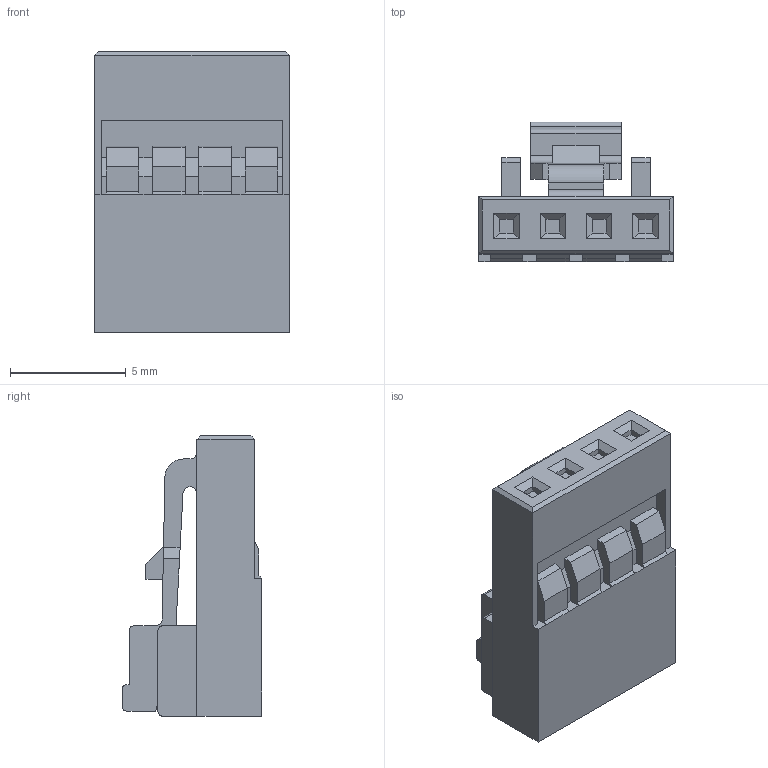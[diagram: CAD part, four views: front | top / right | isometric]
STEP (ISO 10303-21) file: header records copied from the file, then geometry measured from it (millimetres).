
FILE_DESCRIPTION((''),'2;1');
FILE_NAME('1511000004','2018-11-27T',('gga'),(''),'PRO/ENGINEER BY PARAMETRIC TECHNOLOGY CORPORATION, 2016010','PRO/ENGINEER BY PARAMETRIC TECHNOLOGY CORPORATION, 2016010','');
FILE_SCHEMA(('CONFIG_CONTROL_DESIGN'));
Length unit declared in the file: millimetre
Products named in the file (1): 1511000004
Bounding box: 8.4 x 6.02 x 12.1 mm (x, y, z)
Volume: 292.4 mm3; surface area: 524.5 mm2
Topology: 1 solids, 1 shells, 175 faces, 458 edges, 296 vertices
Faces by surface type: plane 164, cylinder 11
Entity records: 5292 total; most frequent: CARTESIAN_POINT 930, ORIENTED_EDGE 916, DIRECTION 832, EDGE_CURVE 458, VECTOR 436, LINE 436, VERTEX_POINT 296, AXIS2_PLACEMENT_3D 198
